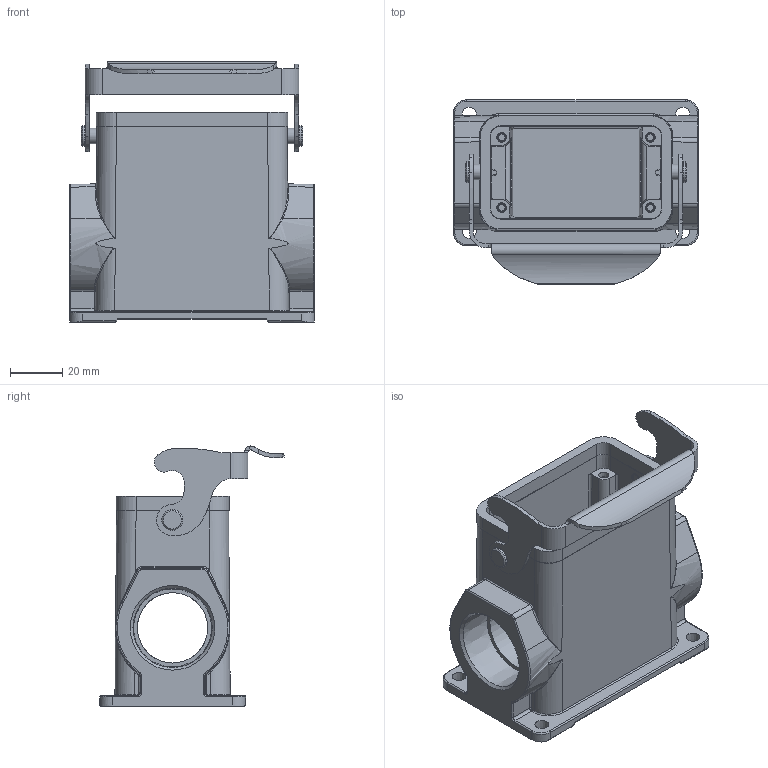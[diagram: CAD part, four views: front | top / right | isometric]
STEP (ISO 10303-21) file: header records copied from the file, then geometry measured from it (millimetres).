
FILE_DESCRIPTION(/* description */ (''),/* implementation_level */ '2;1');
FILE_NAME(/* name */ 'H10B-SGRH-LB-2M32 241213.stp',/* time_stamp */ '2024-12-13T15:34:21+08:00',/* author */ (''),/* organization */ (''),/* preprocessor_version */ 'ST-DEVELOPER v16.7',/* originating_system */ 'SIEMENS PLM Software NX 12.0',/* authorisation */ '');
FILE_SCHEMA (('AUTOMOTIVE_DESIGN { 1 0 10303 214 3 1 1 1 }'));
Length unit declared in the file: millimetre
Products named in the file (1): H10B-SGRH-LB-2M32 241213_stp
Bounding box: 94 x 70.91 x 99.79 mm (x, y, z)
Volume: 123688.5 mm3; surface area: 54121.1 mm2
Topology: 1 solids, 3 shells, 394 faces, 1013 edges, 645 vertices
Faces by surface type: cylinder 168, plane 118, bspline 45, cone 32, torus 27, sphere 4
Full cylindrical faces by diameter (mm): 3.3 x2, 4 x2, 6 x2, 6.1 x2, 8 x2, 27 x2
Entity records: 14681 total; most frequent: CARTESIAN_POINT 5642, ORIENTED_EDGE 1910, DIRECTION 1794, EDGE_CURVE 955, AXIS2_PLACEMENT_3D 703, VERTEX_POINT 629, EDGE_LOOP 474, ADVANCED_FACE 394
